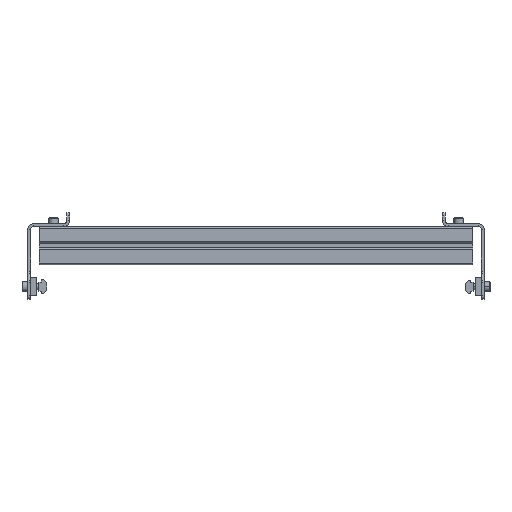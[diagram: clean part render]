
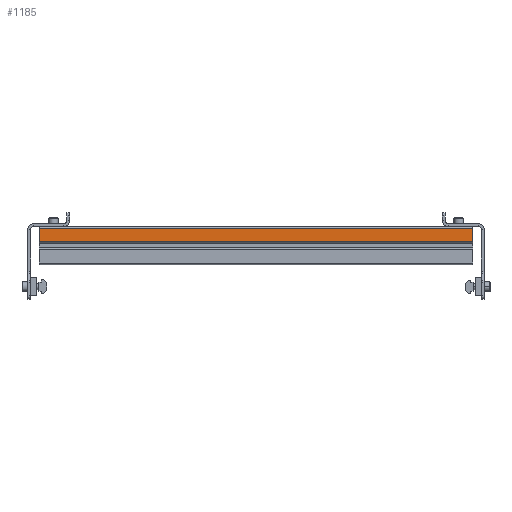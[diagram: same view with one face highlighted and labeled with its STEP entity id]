
A CAD part, top view. The second image highlights one B-rep face of the part: STEP entity #1185.
In plain terms, the highlighted planar face has unit normal (0, 0, 1) as drawn and (0, 1, 0) by its records, which use the part's own axes.
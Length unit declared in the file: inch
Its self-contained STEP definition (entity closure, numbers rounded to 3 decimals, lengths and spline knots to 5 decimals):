
#71 = VERTEX_POINT ( 'NONE', #2607 ) ;
#415 = ORIENTED_EDGE ( 'NONE', *, *, #2975, .F. ) ;
#420 = EDGE_CURVE ( 'NONE', #71, #3485, #7713, .T. ) ;
#435 = CARTESIAN_POINT ( 'NONE',  ( 0.7875, 0.441, -8.98 ) ) ;
#536 = ORIENTED_EDGE ( 'NONE', *, *, #1186, .F. ) ;
#948 = DIRECTION ( 'NONE',  ( 0., 0., -1. ) ) ;
#973 = PLANE ( 'NONE',  #1127 ) ;
#1127 = AXIS2_PLACEMENT_3D ( 'NONE', #1639, #4802, #948 ) ;
#1183 = DIRECTION ( 'NONE',  ( 1., 0., 0. ) ) ;
#1185 = ADVANCED_FACE ( 'NONE', ( #5065 ), #973, .F. ) ;
#1186 = EDGE_CURVE ( 'NONE', #6981, #1809, #2458, .T. ) ;
#1639 = CARTESIAN_POINT ( 'NONE',  ( -0.7875, 0.441, 75. ) ) ;
#1809 = VERTEX_POINT ( 'NONE', #5008 ) ;
#2294 = DIRECTION ( 'NONE',  ( 0., 0., 1. ) ) ;
#2458 = LINE ( 'NONE', #6674, #7209 ) ;
#2607 = CARTESIAN_POINT ( 'NONE',  ( -0.725, 0.441, -8.98 ) ) ;
#2975 = EDGE_CURVE ( 'NONE', #1809, #3485, #5665, .T. ) ;
#3485 = VERTEX_POINT ( 'NONE', #7339 ) ;
#3612 = VECTOR ( 'NONE', #1183, 39.37008 ) ;
#3905 = LINE ( 'NONE', #435, #3612 ) ;
#4335 = DIRECTION ( 'NONE',  ( -1., 0., 0. ) ) ;
#4558 = CARTESIAN_POINT ( 'NONE',  ( -0.14758, 0.441, -8.98 ) ) ;
#4802 = DIRECTION ( 'NONE',  ( 0., -1., 0. ) ) ;
#4821 = ORIENTED_EDGE ( 'NONE', *, *, #420, .T. ) ;
#5008 = CARTESIAN_POINT ( 'NONE',  ( -0.14758, 0.441, 8.98 ) ) ;
#5065 = FACE_OUTER_BOUND ( 'NONE', #7987, .T. ) ;
#5541 = CARTESIAN_POINT ( 'NONE',  ( 0.7875, 0.441, 8.98 ) ) ;
#5665 = LINE ( 'NONE', #5541, #5771 ) ;
#5771 = VECTOR ( 'NONE', #4335, 39.37008 ) ;
#6087 = EDGE_CURVE ( 'NONE', #71, #6981, #3905, .T. ) ;
#6295 = VECTOR ( 'NONE', #8070, 39.37008 ) ;
#6674 = CARTESIAN_POINT ( 'NONE',  ( -0.14758, 0.441, -75. ) ) ;
#6851 = ORIENTED_EDGE ( 'NONE', *, *, #6087, .F. ) ;
#6981 = VERTEX_POINT ( 'NONE', #4558 ) ;
#7209 = VECTOR ( 'NONE', #2294, 39.37008 ) ;
#7339 = CARTESIAN_POINT ( 'NONE',  ( -0.725, 0.441, 8.98 ) ) ;
#7532 = CARTESIAN_POINT ( 'NONE',  ( -0.725, 0.441, 75. ) ) ;
#7713 = LINE ( 'NONE', #7532, #6295 ) ;
#7987 = EDGE_LOOP ( 'NONE', ( #536, #6851, #4821, #415 ) ) ;
#8070 = DIRECTION ( 'NONE',  ( 0., 0., 1. ) ) ;
